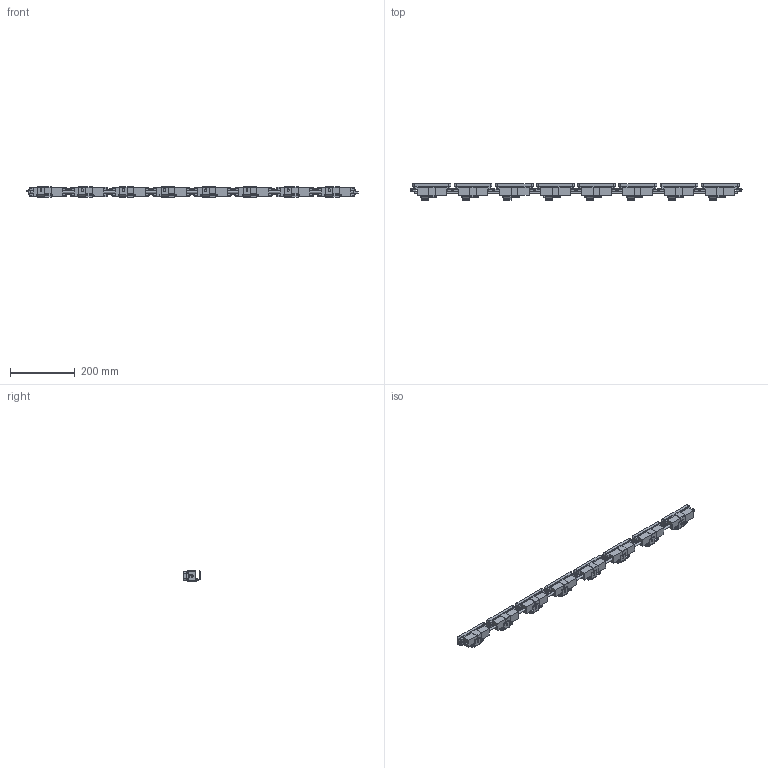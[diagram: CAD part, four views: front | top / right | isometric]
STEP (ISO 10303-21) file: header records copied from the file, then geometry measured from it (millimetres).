
FILE_DESCRIPTION (( 'STEP AP214' ), '1' );
FILE_NAME ('Linear Flex - Angled bracket.STEP', '2025-08-21T14:31:31', ( '' ), ( '' ), 'SwSTEP 2.0', 'SolidWorks 2025', '' );
FILE_SCHEMA (( 'AUTOMOTIVE_DESIGN' ));
Length unit declared in the file: millimetre
Products named in the file (8): Linear Flex - Coupling screw_L50; Linear Flex - Coupling screw_Recessed; Linear Flex - Angled bracket; Linear Flex - Bracket bottom; Linear Flex - Coupling ring and nut; Linear Flex - Body; Linear Flex - Bracket topside; Part28^Linear Flex_Wireless
Assembly tree (55 placements, depth 2):
  Linear Flex - Angled bracket
    Linear Flex - Body  x8
    Linear Flex - Coupling screw_Recessed  x7
    Linear Flex - Coupling ring and nut  x15
    Part28^Linear Flex_Wireless
    Linear Flex - Bracket bottom  x8
    Linear Flex - Bracket topside  x8
    Linear Flex - Coupling screw_L50  x8
Bounding box: 1028 x 51.56 x 31 mm (x, y, z)
Volume: 842753.3 mm3; surface area: 239621.7 mm2
Topology: 70 solids, 70 shells, 2222 faces, 5342 edges, 3364 vertices
Faces by surface type: plane 1139, cylinder 888, cone 165, torus 30
Full cylindrical faces by diameter (mm): 4 x15, 5 x16, 6.5 x9, 7 x16
Entity records: 8909 total; most frequent: CARTESIAN_POINT 1467, DIRECTION 1451, ORIENTED_EDGE 1186, EDGE_CURVE 593, AXIS2_PLACEMENT_3D 556, VERTEX_POINT 380, LINE 339, VECTOR 339
